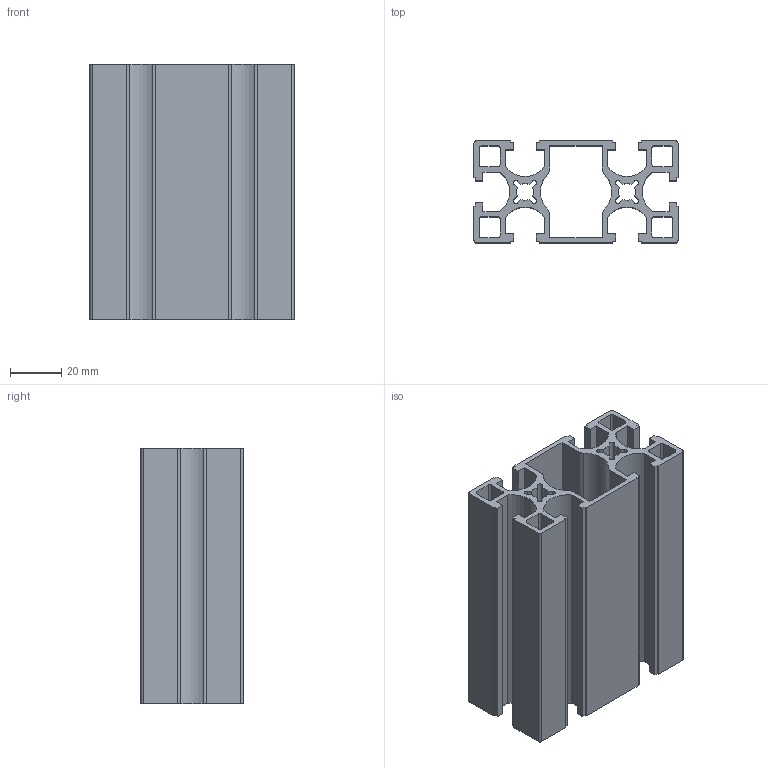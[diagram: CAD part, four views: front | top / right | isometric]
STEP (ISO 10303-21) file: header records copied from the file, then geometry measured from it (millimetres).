
FILE_DESCRIPTION(/* description */ (''),/* implementation_level */ '2;1');
FILE_NAME(/* name */ 'C:\Users\Owner\Documents\硯聰\Inv材料庫-自訂\AM\AM8\AM8-4080_100L.stp',/* time_stamp */ '2019-05-02T09:03:55+08:00',/* author */ ('Owner'),/* organization */ (''),/* preprocessor_version */ 'ST-DEVELOPER v16.1',/* originating_system */ 'Autodesk Inventor 2016',/* authorisation */ '');
FILE_SCHEMA (('AUTOMOTIVE_DESIGN { 1 0 10303 214 3 1 1 }'));
Length unit declared in the file: millimetre
Products named in the file (1): AM8-4080_100L
Bounding box: 80 x 40 x 100 mm (x, y, z)
Volume: 94374.8 mm3; surface area: 79627.6 mm2
Topology: 1 solids, 1 shells, 158 faces, 468 edges, 312 vertices
Faces by surface type: plane 110, cylinder 48
Entity records: 5320 total; most frequent: CARTESIAN_POINT 939, ORIENTED_EDGE 936, DIRECTION 882, EDGE_CURVE 468, LINE 372, VECTOR 372, VERTEX_POINT 312, AXIS2_PLACEMENT_3D 255
